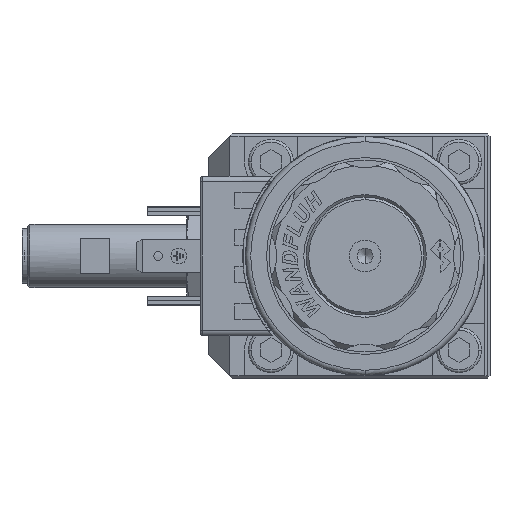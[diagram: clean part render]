
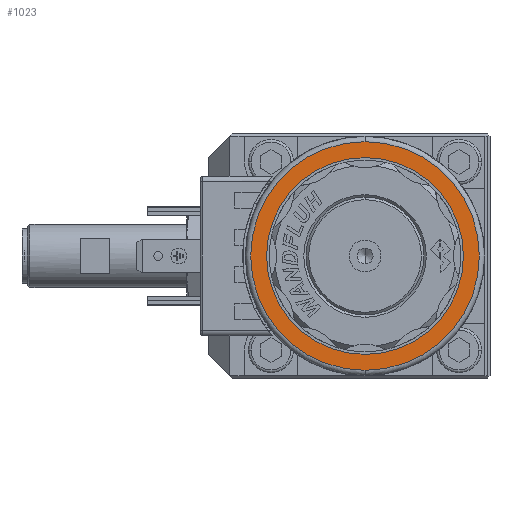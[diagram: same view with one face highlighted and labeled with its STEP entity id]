
A CAD part, left-side view. The second image highlights one B-rep face of the part: STEP entity #1023.
In plain terms, the highlighted planar face has unit normal (-1, 0, 0).
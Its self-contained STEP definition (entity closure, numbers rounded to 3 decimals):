
#1023 = ADVANCED_FACE ( 'NONE', ( #11284, #9982 ), #28041, .F. ) ;
#2561 = ORIENTED_EDGE ( 'NONE', *, *, #31070, .F. ) ;
#4350 = AXIS2_PLACEMENT_3D ( 'NONE', #21740, #61515, #53952 ) ;
#7831 = AXIS2_PLACEMENT_3D ( 'NONE', #60938, #22518, #37585 ) ;
#9838 = DIRECTION ( 'NONE',  ( 0., 0., -1. ) ) ;
#9982 = FACE_OUTER_BOUND ( 'NONE', #75251, .T. ) ;
#10294 = DIRECTION ( 'NONE',  ( -1., 0., 0. ) ) ;
#11284 = FACE_BOUND ( 'NONE', #46569, .T. ) ;
#12305 = ORIENTED_EDGE ( 'NONE', *, *, #89234, .F. ) ;
#15238 = CARTESIAN_POINT ( 'NONE',  ( -113., -0.5, 21.5 ) ) ;
#15396 = VERTEX_POINT ( 'NONE', #15585 ) ;
#15585 = CARTESIAN_POINT ( 'NONE',  ( -113., -0.5, -18.5 ) ) ;
#17815 = CARTESIAN_POINT ( 'NONE',  ( -113., -0.5, 0. ) ) ;
#21740 = CARTESIAN_POINT ( 'NONE',  ( -113., -0.5, 0. ) ) ;
#21928 = DIRECTION ( 'NONE',  ( 0., 0., -1. ) ) ;
#22518 = DIRECTION ( 'NONE',  ( 1., 0., 0. ) ) ;
#22622 = DIRECTION ( 'NONE',  ( 1., 0., 0. ) ) ;
#23000 = CARTESIAN_POINT ( 'NONE',  ( -113., -0.5, -21.5 ) ) ;
#24879 = CIRCLE ( 'NONE', #4350, 18.5 ) ;
#25893 = VERTEX_POINT ( 'NONE', #34719 ) ;
#28041 = PLANE ( 'NONE',  #7831 ) ;
#31070 = EDGE_CURVE ( 'NONE', #25893, #15396, #41833, .T. ) ;
#34719 = CARTESIAN_POINT ( 'NONE',  ( -113., -0.5, 18.5 ) ) ;
#37585 = DIRECTION ( 'NONE',  ( 0., 0., -1. ) ) ;
#37977 = AXIS2_PLACEMENT_3D ( 'NONE', #54504, #22622, #21928 ) ;
#40679 = DIRECTION ( 'NONE',  ( 1., 0., 0. ) ) ;
#41833 = CIRCLE ( 'NONE', #89248, 18.5 ) ;
#46494 = ORIENTED_EDGE ( 'NONE', *, *, #54893, .F. ) ;
#46569 = EDGE_LOOP ( 'NONE', ( #81913, #2561 ) ) ;
#48079 = DIRECTION ( 'NONE',  ( 0., 0., -1. ) ) ;
#50782 = CIRCLE ( 'NONE', #101286, 21.5 ) ;
#53952 = DIRECTION ( 'NONE',  ( 0., 0., -1. ) ) ;
#54504 = CARTESIAN_POINT ( 'NONE',  ( -113., -0.5, 0. ) ) ;
#54893 = EDGE_CURVE ( 'NONE', #71882, #78426, #67582, .T. ) ;
#60938 = CARTESIAN_POINT ( 'NONE',  ( -113., 10.055, 0. ) ) ;
#61515 = DIRECTION ( 'NONE',  ( -1., 0., 0. ) ) ;
#67582 = CIRCLE ( 'NONE', #37977, 21.5 ) ;
#71882 = VERTEX_POINT ( 'NONE', #23000 ) ;
#75251 = EDGE_LOOP ( 'NONE', ( #46494, #12305 ) ) ;
#78426 = VERTEX_POINT ( 'NONE', #15238 ) ;
#80024 = EDGE_CURVE ( 'NONE', #15396, #25893, #24879, .T. ) ;
#81913 = ORIENTED_EDGE ( 'NONE', *, *, #80024, .F. ) ;
#87809 = CARTESIAN_POINT ( 'NONE',  ( -113., -0.5, 0. ) ) ;
#89234 = EDGE_CURVE ( 'NONE', #78426, #71882, #50782, .T. ) ;
#89248 = AXIS2_PLACEMENT_3D ( 'NONE', #17815, #10294, #48079 ) ;
#101286 = AXIS2_PLACEMENT_3D ( 'NONE', #87809, #40679, #9838 ) ;
